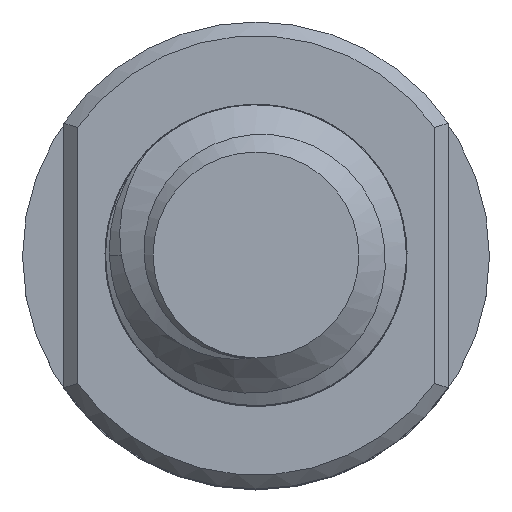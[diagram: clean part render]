
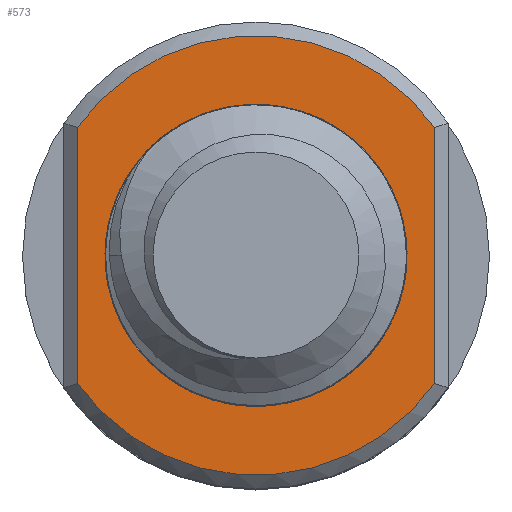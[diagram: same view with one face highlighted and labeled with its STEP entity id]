
A CAD part, top view. The second image highlights one B-rep face of the part: STEP entity #573.
In plain terms, the highlighted planar face has unit normal (0, 0, 1).
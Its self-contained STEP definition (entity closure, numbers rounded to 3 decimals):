
#573=ADVANCED_FACE('',(#8514,#8516),#8518,.T.);
#8514=FACE_BOUND('',#8515,.T.);
#8515=EDGE_LOOP('',(#10909,#10910,#10911,#10912));
#8516=FACE_BOUND('',#8517,.T.);
#8517=EDGE_LOOP('',(#10913,#10914));
#8518=PLANE('',#8519);
#8519=AXIS2_PLACEMENT_3D('',#8520,#8521,#8522);
#8520=CARTESIAN_POINT('',(0.,0.,15.));
#8521=DIRECTION('',(0.,0.,1.));
#8522=DIRECTION('',(-1.,0.,0.));
#10909=ORIENTED_EDGE('',*,*,#11121,.T.);
#10910=ORIENTED_EDGE('',*,*,#11122,.T.);
#10911=ORIENTED_EDGE('',*,*,#11123,.T.);
#10912=ORIENTED_EDGE('',*,*,#11124,.T.);
#10913=ORIENTED_EDGE('',*,*,#11125,.T.);
#10914=ORIENTED_EDGE('',*,*,#11112,.T.);
#11112=EDGE_CURVE('',#11351,#11349,#11352,.F.);
#11121=EDGE_CURVE('',#11367,#11368,#11369,.T.);
#11122=EDGE_CURVE('',#11368,#11370,#11371,.T.);
#11123=EDGE_CURVE('',#11370,#11372,#11373,.T.);
#11124=EDGE_CURVE('',#11372,#11367,#11374,.T.);
#11125=EDGE_CURVE('',#11349,#11351,#11375,.F.);
#11349=VERTEX_POINT('',#15283);
#11351=VERTEX_POINT('',#15289);
#11352=CIRCLE('',#15290,11.);
#11367=VERTEX_POINT('',#15380);
#11368=VERTEX_POINT('',#15381);
#11369=CIRCLE('',#15382,16.);
#11370=VERTEX_POINT('',#15386);
#11371=LINE('',#15387,#15388);
#11372=VERTEX_POINT('',#15390);
#11373=CIRCLE('',#15391,16.);
#11374=LINE('',#15395,#15396);
#11375=CIRCLE('',#15398,11.);
#15283=CARTESIAN_POINT('',(0.346,-10.995,15.));
#15289=CARTESIAN_POINT('',(-0.346,-10.995,15.));
#15290=AXIS2_PLACEMENT_3D('',#15291,#15292,#15293);
#15291=CARTESIAN_POINT('',(0.,0.,15.));
#15292=DIRECTION('',(0.,0.,1.));
#15293=DIRECTION('',(0.031,-1.,0.));
#15380=CARTESIAN_POINT('',(-13.,-9.327,15.));
#15381=CARTESIAN_POINT('',(13.,-9.327,15.));
#15382=AXIS2_PLACEMENT_3D('',#15383,#15384,#15385);
#15383=CARTESIAN_POINT('',(0.,0.,15.));
#15384=DIRECTION('',(0.,0.,1.));
#15385=DIRECTION('',(-0.813,-0.583,0.));
#15386=CARTESIAN_POINT('',(13.,9.327,15.));
#15387=CARTESIAN_POINT('',(13.,-9.327,15.));
#15388=VECTOR('',#15389,1.);
#15389=DIRECTION('',(0.,1.,0.));
#15390=CARTESIAN_POINT('',(-13.,9.327,15.));
#15391=AXIS2_PLACEMENT_3D('',#15392,#15393,#15394);
#15392=CARTESIAN_POINT('',(0.,0.,15.));
#15393=DIRECTION('',(0.,0.,1.));
#15394=DIRECTION('',(0.813,0.583,0.));
#15395=CARTESIAN_POINT('',(-13.,9.327,15.));
#15396=VECTOR('',#15397,1.);
#15397=DIRECTION('',(0.,-1.,0.));
#15398=AXIS2_PLACEMENT_3D('',#15399,#15400,#15401);
#15399=CARTESIAN_POINT('',(0.,0.,15.));
#15400=DIRECTION('',(0.,0.,1.));
#15401=DIRECTION('',(-0.031,-1.,0.));
